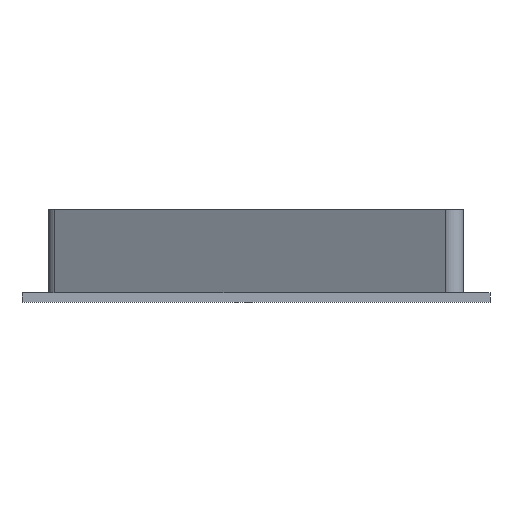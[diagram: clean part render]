
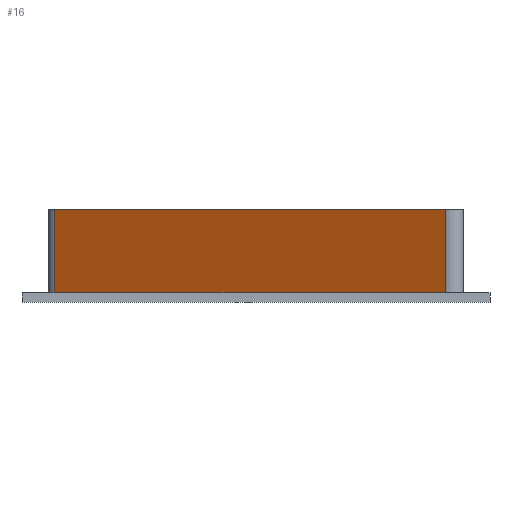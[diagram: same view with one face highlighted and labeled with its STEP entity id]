
A CAD part, front view. The second image highlights one B-rep face of the part: STEP entity #16.
In plain terms, the highlighted planar face has unit normal (-0.5, -0.866, 0).
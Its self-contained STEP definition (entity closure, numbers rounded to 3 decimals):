
#16 = ADVANCED_FACE ( 'NONE', ( #797 ), #57, .F. ) ;
#45 = VERTEX_POINT ( 'NONE', #403 ) ;
#57 = PLANE ( 'NONE',  #167 ) ;
#68 = VERTEX_POINT ( 'NONE', #407 ) ;
#117 = VERTEX_POINT ( 'NONE', #470 ) ;
#129 = VERTEX_POINT ( 'NONE', #454 ) ;
#137 = DIRECTION ( 'NONE',  ( -0.866, 0.5, 0. ) ) ;
#142 = CARTESIAN_POINT ( 'NONE',  ( -84.772, 110.67, 39. ) ) ;
#143 = DIRECTION ( 'NONE',  ( 0.5, 0.866, 0. ) ) ;
#167 = AXIS2_PLACEMENT_3D ( 'NONE', #142, #143, #137 ) ;
#201 = EDGE_CURVE ( 'NONE', #117, #68, #901, .T. ) ;
#204 = EDGE_CURVE ( 'NONE', #45, #129, #855, .T. ) ;
#207 = EDGE_CURVE ( 'NONE', #117, #45, #912, .T. ) ;
#237 = EDGE_CURVE ( 'NONE', #68, #129, #757, .T. ) ;
#315 = DIRECTION ( 'NONE',  ( 0., 0., -1. ) ) ;
#359 = CARTESIAN_POINT ( 'NONE',  ( 79.772, 15.67, 39. ) ) ;
#403 = CARTESIAN_POINT ( 'NONE',  ( -84.772, 110.67, 4. ) ) ;
#407 = CARTESIAN_POINT ( 'NONE',  ( 79.772, 15.67, 39. ) ) ;
#454 = CARTESIAN_POINT ( 'NONE',  ( 79.772, 15.67, 4. ) ) ;
#470 = CARTESIAN_POINT ( 'NONE',  ( -84.772, 110.67, 39. ) ) ;
#480 = DIRECTION ( 'NONE',  ( 0.866, -0.5, 0. ) ) ;
#485 = CARTESIAN_POINT ( 'NONE',  ( -84.772, 110.67, 4. ) ) ;
#501 = CARTESIAN_POINT ( 'NONE',  ( -84.772, 110.67, 39. ) ) ;
#503 = DIRECTION ( 'NONE',  ( 0., 0., -1. ) ) ;
#513 = CARTESIAN_POINT ( 'NONE',  ( -84.772, 110.67, 39. ) ) ;
#535 = DIRECTION ( 'NONE',  ( 0.866, -0.5, 0. ) ) ;
#616 = EDGE_LOOP ( 'NONE', ( #708, #639, #704, #706 ) ) ;
#639 = ORIENTED_EDGE ( 'NONE', *, *, #237, .F. ) ;
#704 = ORIENTED_EDGE ( 'NONE', *, *, #201, .F. ) ;
#706 = ORIENTED_EDGE ( 'NONE', *, *, #207, .T. ) ;
#708 = ORIENTED_EDGE ( 'NONE', *, *, #204, .T. ) ;
#757 = LINE ( 'NONE', #359, #887 ) ;
#797 = FACE_OUTER_BOUND ( 'NONE', #616, .T. ) ;
#851 = VECTOR ( 'NONE', #480, 1000. ) ;
#853 = VECTOR ( 'NONE', #535, 1000. ) ;
#854 = VECTOR ( 'NONE', #503, 1000. ) ;
#855 = LINE ( 'NONE', #485, #853 ) ;
#887 = VECTOR ( 'NONE', #315, 1000. ) ;
#901 = LINE ( 'NONE', #501, #851 ) ;
#912 = LINE ( 'NONE', #513, #854 ) ;
